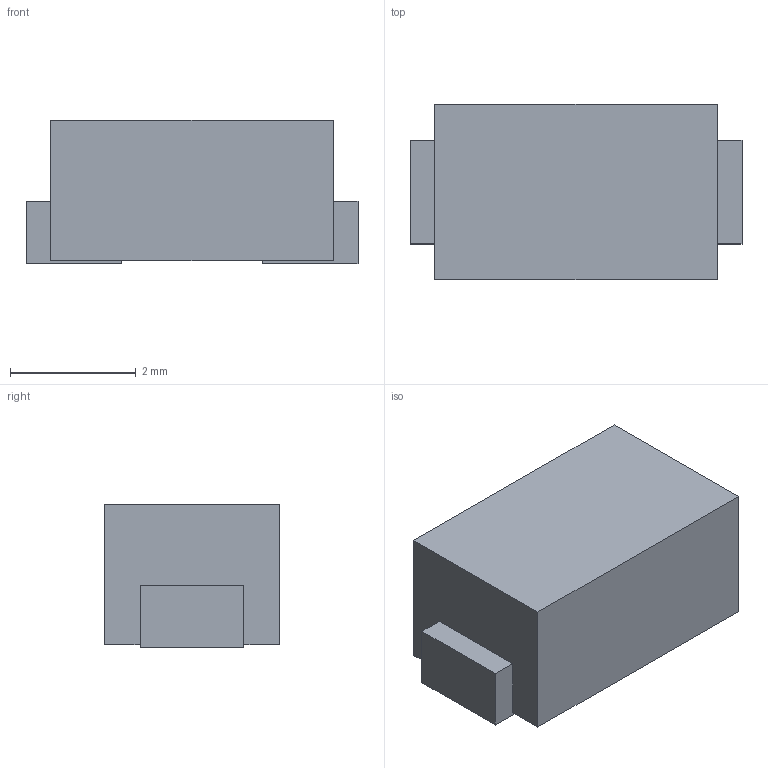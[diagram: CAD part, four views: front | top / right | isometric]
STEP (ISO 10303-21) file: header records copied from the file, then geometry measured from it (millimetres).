
FILE_DESCRIPTION(('FreeCAD Model'),'2;1');
FILE_NAME('Open CASCADE Shape Model','2026-11-09T19:07:19',('FreeCAD'),( 'FreeCAD'),'Open CASCADE STEP processor 7.9','FreeCAD','Unknown');
FILE_SCHEMA(('AUTOMOTIVE_DESIGN { 1 0 10303 214 1 1 1 1 }'));
Length unit declared in the file: millimetre
Products named in the file (1): Open CASCADE STEP translator 7.9 1
Bounding box: 5.28 x 2.79 x 2.29 mm (x, y, z)
Volume: 29.6 mm3; surface area: 62.5 mm2
Topology: 1 solids, 1 shells, 18 faces, 48 edges, 32 vertices
Faces by surface type: plane 18
Entity records: 562 total; most frequent: CARTESIAN_POINT 99, ORIENTED_EDGE 96, DIRECTION 86, EDGE_CURVE 48, LINE 48, VECTOR 48, VERTEX_POINT 32, AXIS2_PLACEMENT_3D 19
